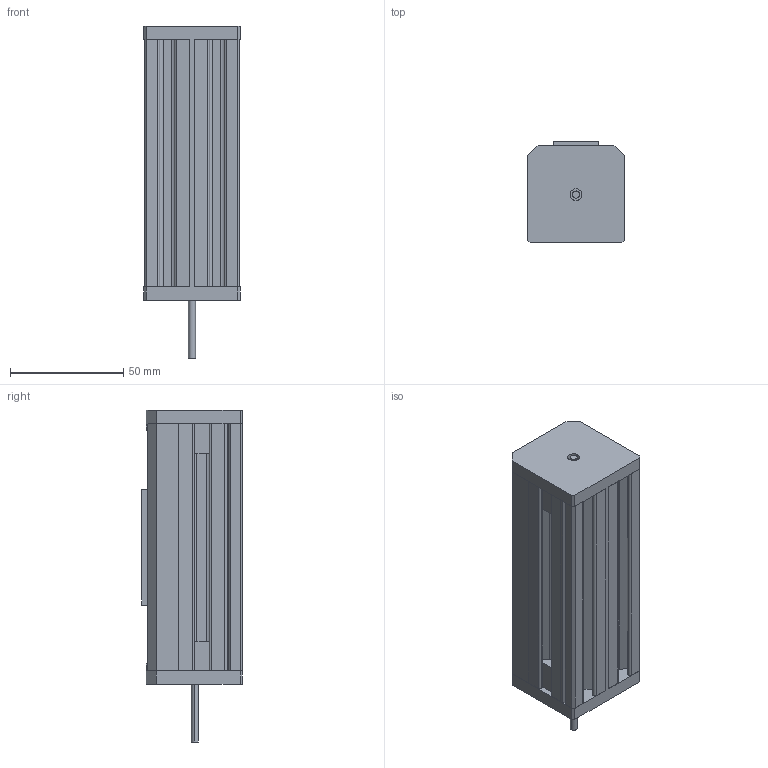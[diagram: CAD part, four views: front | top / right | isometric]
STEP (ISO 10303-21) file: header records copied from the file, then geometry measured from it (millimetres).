
FILE_DESCRIPTION (( 'STEP AP214' ), '1' );
FILE_NAME ('AMETEK-Slide-X43-B0050-NNN.STEP', '2022-03-03T15:50:18', ( '' ), ( '' ), 'SwSTEP 2.0', 'SolidWorks 2021', '' );
FILE_SCHEMA (( 'AUTOMOTIVE_DESIGN' ));
Length unit declared in the file: millimetre
Products named in the file (3): RAIL_Cut; BLOCK_Dual Pin; AMETEK-Slide-X43-B0050-NNN
Assembly tree (2 placements, depth 2):
  AMETEK-Slide-X43-B0050-NNN
    RAIL_Cut
    BLOCK_Dual Pin
Bounding box: 42.5 x 44.5 x 146.4 mm (x, y, z)
Volume: 125417.6 mm3; surface area: 55003 mm2
Topology: 2 solids, 2 shells, 236 faces, 664 edges, 430 vertices
Faces by surface type: plane 138, cylinder 84, cone 14
Entity records: 8716 total; most frequent: CARTESIAN_POINT 1323, DIRECTION 1310, ORIENTED_EDGE 1304, EDGE_CURVE 652, VECTOR 476, LINE 476, VERTEX_POINT 430, AXIS2_PLACEMENT_3D 417
